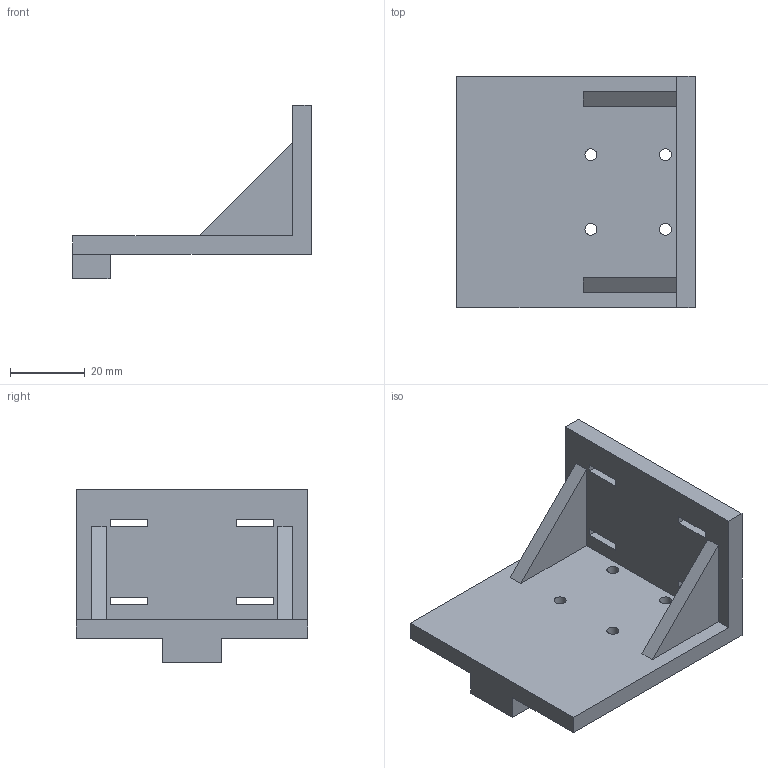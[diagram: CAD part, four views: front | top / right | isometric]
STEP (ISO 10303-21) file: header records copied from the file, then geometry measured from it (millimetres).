
FILE_DESCRIPTION(('Open CASCADE Model'),'2;1');
FILE_NAME('Open CASCADE Shape Model','2026-09-04T19:26:44',('Author'),( 'Open CASCADE'),'Open CASCADE STEP processor 7.9','Open CASCADE 7.9' ,'Unknown');
FILE_SCHEMA(('AUTOMOTIVE_DESIGN { 1 0 10303 214 1 1 1 1 }'));
Length unit declared in the file: millimetre
Products named in the file (1): COMPOUND
Bounding box: 64 x 62 x 46.5 mm (x, y, z)
Volume: 33669.2 mm3; surface area: 15813.6 mm2
Topology: 1 solids, 1 shells, 38 faces, 108 edges, 72 vertices
Faces by surface type: plane 34, cylinder 4
Full cylindrical faces by diameter (mm): 3.2 x4
Entity records: 2606 total; most frequent: CARTESIAN_POINT 511, DIRECTION 334, LINE 232, VECTOR 232, ORIENTED_EDGE 216, PCURVE 216, DEFINITIONAL_REPRESENTATION 216, EDGE_CURVE 108
